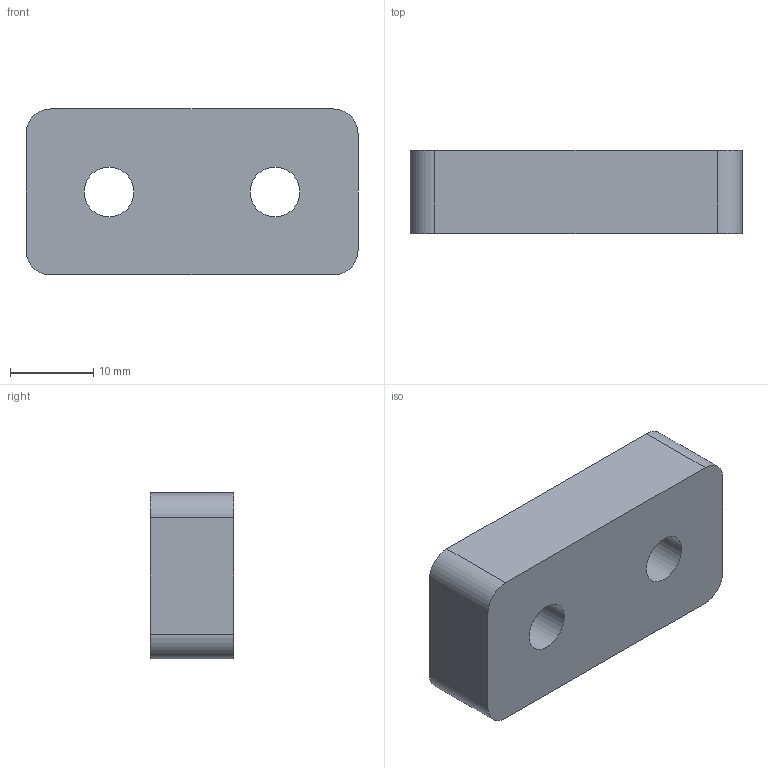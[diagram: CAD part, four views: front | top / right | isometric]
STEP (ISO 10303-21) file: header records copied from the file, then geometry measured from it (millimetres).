
FILE_DESCRIPTION((''),'2;1');
FILE_NAME('0000208877','2024-02-23T12:30:39',('Wyndorps'),(''),'CREO PARAMETRIC BY PTC INC, 2022484','CREO PARAMETRIC BY PTC INC, 2022484','');
FILE_SCHEMA(('CONFIG_CONTROL_DESIGN'));
Length unit declared in the file: millimetre
Products named in the file (1): 0000208877
Bounding box: 40 x 10 x 20 mm (x, y, z)
Volume: 7357.3 mm3; surface area: 2996.9 mm2
Topology: 1 solids, 1 shells, 14 faces, 36 edges, 24 vertices
Faces by surface type: cylinder 8, plane 6
Entity records: 482 total; most frequent: DIRECTION 80, CARTESIAN_POINT 74, ORIENTED_EDGE 72, EDGE_CURVE 36, AXIS2_PLACEMENT_3D 30, VERTEX_POINT 24, VECTOR 20, LINE 20
